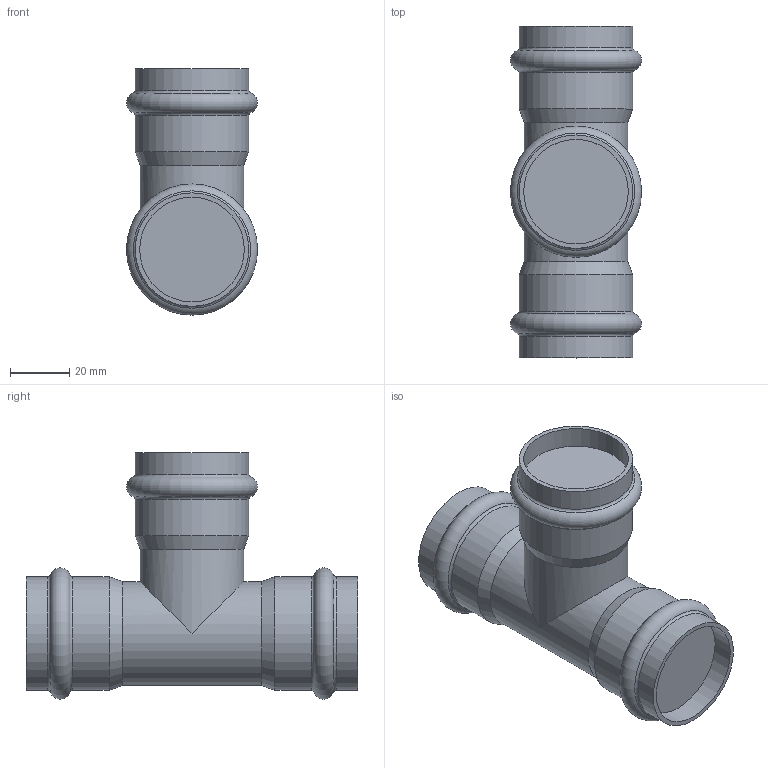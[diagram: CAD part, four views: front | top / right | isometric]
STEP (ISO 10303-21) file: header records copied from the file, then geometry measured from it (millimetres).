
FILE_DESCRIPTION(('STEP AP203'), '1');
FILE_NAME('VTi.931.I.353535', '', ('UNSPECIFIED'), ('UNSPECIFIED'), 'C3D Converter', 'C3D Toolkit', '');
FILE_SCHEMA(('CONFIG_CONTROL_DESIGN'));
Length unit declared in the file: millimetre
Bounding box: 44.28 x 112 x 83.14 mm (x, y, z)
Volume: 154215.8 mm3; surface area: 24786.1 mm2
Topology: 1 solids, 1 shells, 29 faces, 55 edges, 31 vertices
Faces by surface type: cylinder 11, torus 9, plane 6, cone 3
Full cylindrical faces by diameter (mm): 35 x2, 35.3 x3, 38.3 x6
Entity records: 640 total; most frequent: DIRECTION 114, CARTESIAN_POINT 104, ORIENTED_EDGE 62, AXIS2_PLACEMENT_3D 57, EDGE_LOOP 56, FACE_OUTER_BOUND 45, EDGE_CURVE 31, VERTEX_POINT 31
